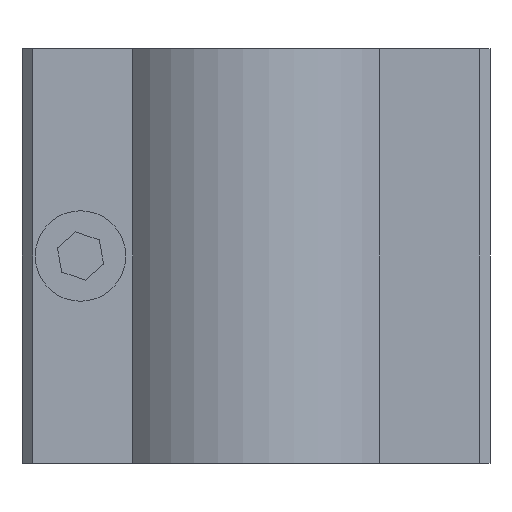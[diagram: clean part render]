
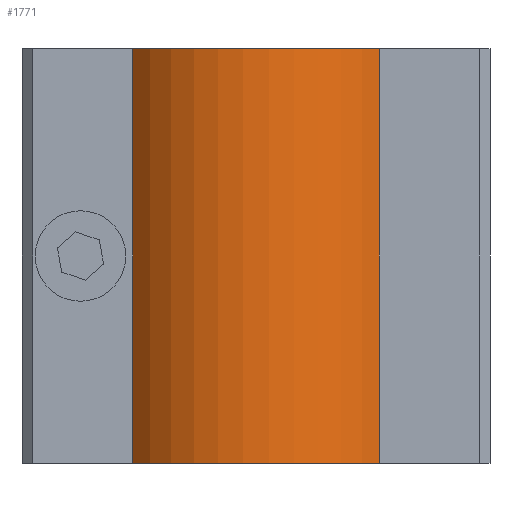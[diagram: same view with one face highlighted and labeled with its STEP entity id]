
A CAD part, front view. The second image highlights one B-rep face of the part: STEP entity #1771.
In plain terms, the highlighted cylindrical face has radius 15 mm (diameter 30 mm), a partial arc.
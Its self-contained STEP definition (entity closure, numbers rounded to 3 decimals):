
#1098=CARTESIAN_POINT('',(-12.317,-5.302,35.5));
#1099=VERTEX_POINT('',#1098);
#1106=CARTESIAN_POINT('',(10.899,-5.302,35.5));
#1107=VERTEX_POINT('',#1106);
#1108=CARTESIAN_POINT('',(-0.709,4.198,35.5));
#1109=DIRECTION('',(0.0,0.0,-1.0));
#1110=DIRECTION('',(0.774,0.633,0.0));
#1111=AXIS2_PLACEMENT_3D('',#1108,#1109,#1110);
#1112=CIRCLE('',#1111,15.);
#1113=EDGE_CURVE('',#1107,#1099,#1112,.T.);
#1666=CARTESIAN_POINT('',(10.899,-5.302,-3.5));
#1667=VERTEX_POINT('',#1666);
#1674=CARTESIAN_POINT('',(-12.317,-5.302,-3.5));
#1675=VERTEX_POINT('',#1674);
#1676=CARTESIAN_POINT('',(-0.709,4.198,-3.5));
#1677=DIRECTION('',(0.0,0.0,1.0));
#1678=DIRECTION('',(0.774,0.633,0.0));
#1679=AXIS2_PLACEMENT_3D('',#1676,#1677,#1678);
#1680=CIRCLE('',#1679,15.);
#1681=EDGE_CURVE('',#1675,#1667,#1680,.T.);
#1744=CARTESIAN_POINT('',(10.899,-5.302,35.5));
#1745=DIRECTION('',(0.0,0.0,-1.0));
#1746=VECTOR('',#1745,39.0);
#1747=LINE('',#1744,#1746);
#1748=EDGE_CURVE('',#1107,#1667,#1747,.T.);
#1755=CARTESIAN_POINT('',(-0.709,4.198,16.0));
#1756=DIRECTION('',(0.0,0.0,1.0));
#1757=DIRECTION('',(0.774,0.633,0.0));
#1758=AXIS2_PLACEMENT_3D('',#1755,#1756,#1757);
#1759=CYLINDRICAL_SURFACE('',#1758,15.);
#1760=ORIENTED_EDGE('',*,*,#1113,.T.);
#1761=CARTESIAN_POINT('',(-12.317,-5.302,35.5));
#1762=DIRECTION('',(0.0,0.0,-1.0));
#1763=VECTOR('',#1762,39.0);
#1764=LINE('',#1761,#1763);
#1765=EDGE_CURVE('',#1099,#1675,#1764,.T.);
#1766=ORIENTED_EDGE('',*,*,#1765,.T.);
#1767=ORIENTED_EDGE('',*,*,#1681,.T.);
#1768=ORIENTED_EDGE('',*,*,#1748,.F.);
#1769=EDGE_LOOP('',(#1760,#1766,#1767,#1768));
#1770=FACE_OUTER_BOUND('',#1769,.T.);
#1771=ADVANCED_FACE('',(#1770),#1759,.T.);
